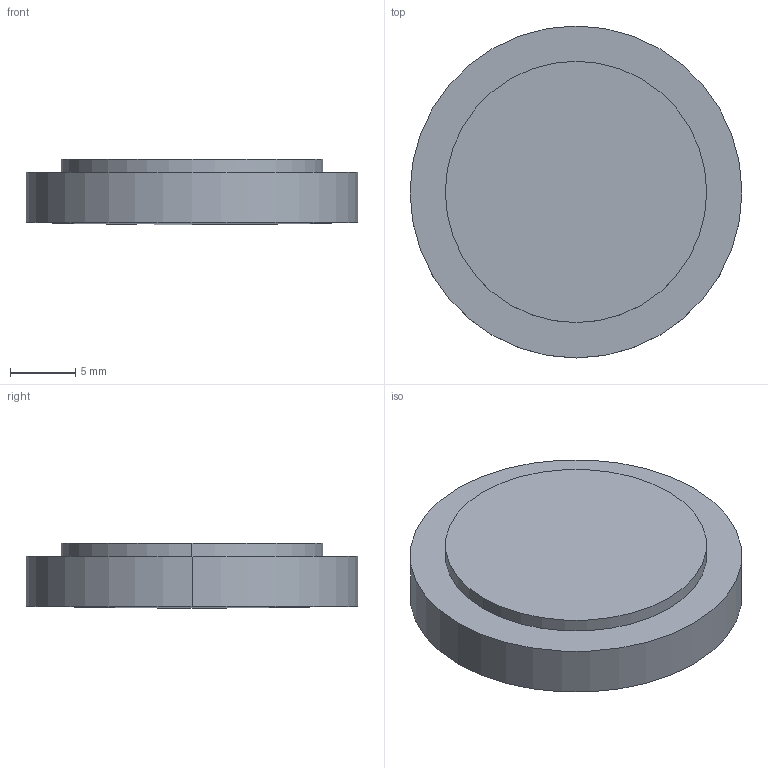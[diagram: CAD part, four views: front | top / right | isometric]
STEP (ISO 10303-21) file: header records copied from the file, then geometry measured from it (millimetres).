
FILE_DESCRIPTION(('STEP AP214'),'1');
FILE_NAME('LLQ-25-1M.STEP','2020-03-09T17:41:44',(' '),(' '),'Spatial InterOp 3D',' ',' ');
FILE_SCHEMA(('AUTOMOTIVE_DESIGN { 1 0 10303 214 1 1 1 1 }'));
Length unit declared in the file: millimetre
Products named in the file (1): 1
Bounding box: 25.4 x 25.4 x 5 mm (x, y, z)
Volume: 2297.6 mm3; surface area: 2010.2 mm2
Topology: 2 solids, 2 shells, 9 faces, 16 edges, 9 vertices
Faces by surface type: cylinder 4, plane 3, sphere 2
Entity records: 229 total; most frequent: DIRECTION 46, CARTESIAN_POINT 34, ORIENTED_EDGE 28, AXIS2_PLACEMENT_3D 21, EDGE_CURVE 14, CIRCLE 10, ADVANCED_FACE 9, FACE_OUTER_BOUND 9
